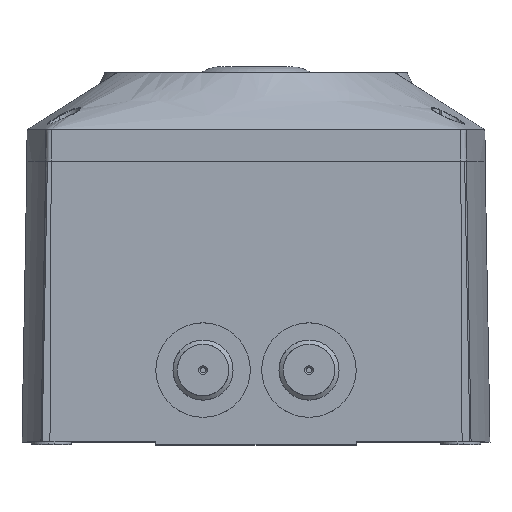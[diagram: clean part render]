
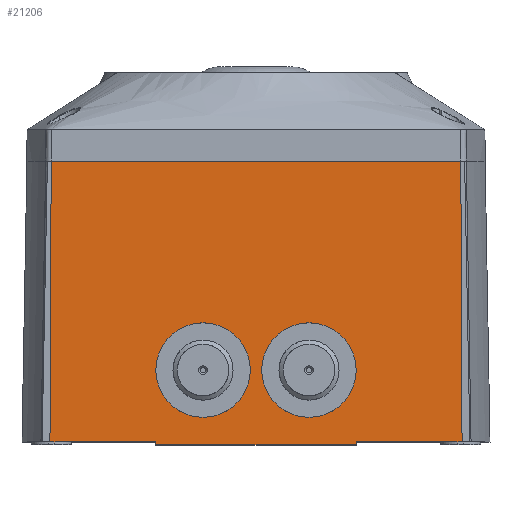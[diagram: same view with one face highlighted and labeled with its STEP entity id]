
A CAD part, top view. The second image highlights one B-rep face of the part: STEP entity #21206.
In plain terms, the highlighted planar face has unit normal (0, 0, 1).
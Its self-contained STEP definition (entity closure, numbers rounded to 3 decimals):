
#15971 = CARTESIAN_POINT ( 'NONE',  ( 1.998, -32., 67.5 ) ) ;
#15974 = VERTEX_POINT ( 'NONE', #15971 ) ;
#16101 = CARTESIAN_POINT ( 'NONE',  ( -35.002, -32., 67.5 ) ) ;
#16104 = VERTEX_POINT ( 'NONE', #16101 ) ;
#21168 = EDGE_CURVE ( 'NONE', #21292, #21171, #28206, .T. ) ;
#21171 = VERTEX_POINT ( 'NONE', #28208 ) ;
#21180 = VERTEX_POINT ( 'NONE', #28145 ) ;
#21181 = EDGE_CURVE ( 'NONE', #21292, #21180, #28176, .T. ) ;
#21186 = VERTEX_POINT ( 'NONE', #28168 ) ;
#21203 = VERTEX_POINT ( 'NONE', #28161 ) ;
#21204 = VERTEX_POINT ( 'NONE', #28195 ) ;
#21206 = ADVANCED_FACE ( 'NONE', ( #28188, #28190, #28189 ), #28296, .F. ) ;
#21208 = ORIENTED_EDGE ( 'NONE', *, *, #21470, .F. ) ;
#21210 = EDGE_LOOP ( 'NONE', ( #21211 ) ) ;
#21211 = ORIENTED_EDGE ( 'NONE', *, *, #21282, .F. ) ;
#21212 = EDGE_LOOP ( 'NONE', ( #21213, #21217, #21223, #21221, #21215, #21726, #21728, #21524 ) ) ;
#21213 = ORIENTED_EDGE ( 'NONE', *, *, #21572, .T. ) ;
#21214 = EDGE_CURVE ( 'NONE', #21204, #21186, #28288, .T. ) ;
#21215 = ORIENTED_EDGE ( 'NONE', *, *, #21181, .T. ) ;
#21217 = ORIENTED_EDGE ( 'NONE', *, *, #21214, .T. ) ;
#21219 = VERTEX_POINT ( 'NONE', #28293 ) ;
#21221 = ORIENTED_EDGE ( 'NONE', *, *, #21168, .F. ) ;
#21223 = ORIENTED_EDGE ( 'NONE', *, *, #21273, .F. ) ;
#21225 = VERTEX_POINT ( 'NONE', #28295 ) ;
#21228 = EDGE_CURVE ( 'NONE', #21180, #21219, #28275, .T. ) ;
#21273 = EDGE_CURVE ( 'NONE', #21171, #21186, #28354, .T. ) ;
#21282 = EDGE_CURVE ( 'NONE', #15974, #15974, #29144, .T. ) ;
#21292 = VERTEX_POINT ( 'NONE', #29132 ) ;
#21469 = EDGE_LOOP ( 'NONE', ( #21208 ) ) ;
#21470 = EDGE_CURVE ( 'NONE', #16104, #16104, #29455, .T. ) ;
#21524 = ORIENTED_EDGE ( 'NONE', *, *, #21729, .F. ) ;
#21572 = EDGE_CURVE ( 'NONE', #21203, #21204, #29525, .T. ) ;
#21726 = ORIENTED_EDGE ( 'NONE', *, *, #21228, .T. ) ;
#21727 = EDGE_CURVE ( 'NONE', #21219, #21225, #29856, .T. ) ;
#21728 = ORIENTED_EDGE ( 'NONE', *, *, #21727, .T. ) ;
#21729 = EDGE_CURVE ( 'NONE', #21203, #21225, #29844, .T. ) ;
#28098 = CARTESIAN_POINT ( 'NONE',  ( 34.991, -58., 67.5 ) ) ;
#28145 = CARTESIAN_POINT ( 'NONE',  ( 35., -57., 67.5 ) ) ;
#28161 = CARTESIAN_POINT ( 'NONE',  ( -71.519, 41., 67.5 ) ) ;
#28168 = CARTESIAN_POINT ( 'NONE',  ( -35., -57., 67.5 ) ) ;
#28174 = DIRECTION ( 'NONE',  ( 0.009, 1., 0. ) ) ;
#28175 = VECTOR ( 'NONE', #28174, 1000. ) ;
#28176 = LINE ( 'NONE', #28098, #28175 ) ;
#28188 = FACE_BOUND ( 'NONE', #21469, .T. ) ;
#28189 = FACE_OUTER_BOUND ( 'NONE', #21212, .T. ) ;
#28190 = FACE_BOUND ( 'NONE', #21210, .T. ) ;
#28195 = CARTESIAN_POINT ( 'NONE',  ( -71.946, -57., 67.5 ) ) ;
#28204 = DIRECTION ( 'NONE',  ( -1., 0., 0. ) ) ;
#28205 = VECTOR ( 'NONE', #28204, 1000. ) ;
#28206 = LINE ( 'NONE', #28211, #28205 ) ;
#28208 = CARTESIAN_POINT ( 'NONE',  ( -34.991, -58., 67.5 ) ) ;
#28211 = CARTESIAN_POINT ( 'NONE',  ( 35., -58., 67.5 ) ) ;
#28226 = DIRECTION ( 'NONE',  ( -0.009, 1., 0. ) ) ;
#28273 = DIRECTION ( 'NONE',  ( 1., 0., 0. ) ) ;
#28274 = VECTOR ( 'NONE', #28273, 1000. ) ;
#28275 = LINE ( 'NONE', #28285, #28274 ) ;
#28282 = DIRECTION ( 'NONE',  ( 1., 0., 0. ) ) ;
#28283 = VECTOR ( 'NONE', #28282, 1000. ) ;
#28284 = CARTESIAN_POINT ( 'NONE',  ( 150., -57., 67.5 ) ) ;
#28285 = CARTESIAN_POINT ( 'NONE',  ( 150., -57., 67.5 ) ) ;
#28288 = LINE ( 'NONE', #28284, #28283 ) ;
#28289 = DIRECTION ( 'NONE',  ( -1., 0., 0. ) ) ;
#28290 = DIRECTION ( 'NONE',  ( 0., 0., -1. ) ) ;
#28291 = CARTESIAN_POINT ( 'NONE',  ( 35., -58., 67.5 ) ) ;
#28292 = AXIS2_PLACEMENT_3D ( 'NONE', #28291, #28290, #28289 ) ;
#28293 = CARTESIAN_POINT ( 'NONE',  ( 71.946, -57., 67.5 ) ) ;
#28295 = CARTESIAN_POINT ( 'NONE',  ( 71.519, 41., 67.5 ) ) ;
#28296 = PLANE ( 'NONE',  #28292 ) ;
#28352 = VECTOR ( 'NONE', #28226, 1000. ) ;
#28353 = CARTESIAN_POINT ( 'NONE',  ( -35., -57., 67.5 ) ) ;
#28354 = LINE ( 'NONE', #28353, #28352 ) ;
#29132 = CARTESIAN_POINT ( 'NONE',  ( 34.991, -58., 67.5 ) ) ;
#29133 = DIRECTION ( 'NONE',  ( -1., 0., 0. ) ) ;
#29134 = DIRECTION ( 'NONE',  ( 0., 0., 1. ) ) ;
#29144 = CIRCLE ( 'NONE', #29150, 16.502 ) ;
#29150 = AXIS2_PLACEMENT_3D ( 'NONE', #29157, #29134, #29133 ) ;
#29157 = CARTESIAN_POINT ( 'NONE',  ( 18.5, -32., 67.5 ) ) ;
#29453 = CARTESIAN_POINT ( 'NONE',  ( -18.5, -32., 67.5 ) ) ;
#29455 = CIRCLE ( 'NONE', #29456, 16.502 ) ;
#29456 = AXIS2_PLACEMENT_3D ( 'NONE', #29453, #29515, #29514 ) ;
#29514 = DIRECTION ( 'NONE',  ( -1., 0., 0. ) ) ;
#29515 = DIRECTION ( 'NONE',  ( 0., 0., 1. ) ) ;
#29522 = DIRECTION ( 'NONE',  ( -0.004, -1., 0. ) ) ;
#29523 = VECTOR ( 'NONE', #29522, 1000. ) ;
#29524 = CARTESIAN_POINT ( 'NONE',  ( -71.519, 41., 67.5 ) ) ;
#29525 = LINE ( 'NONE', #29524, #29523 ) ;
#29842 = DIRECTION ( 'NONE',  ( 1., 0., 0. ) ) ;
#29843 = VECTOR ( 'NONE', #29842, 1000. ) ;
#29844 = LINE ( 'NONE', #29850, #29843 ) ;
#29847 = VECTOR ( 'NONE', #29860, 1000. ) ;
#29850 = CARTESIAN_POINT ( 'NONE',  ( 27.789, 41., 67.5 ) ) ;
#29856 = LINE ( 'NONE', #29861, #29847 ) ;
#29860 = DIRECTION ( 'NONE',  ( -0.004, 1., 0. ) ) ;
#29861 = CARTESIAN_POINT ( 'NONE',  ( 71.519, 41., 67.5 ) ) ;
